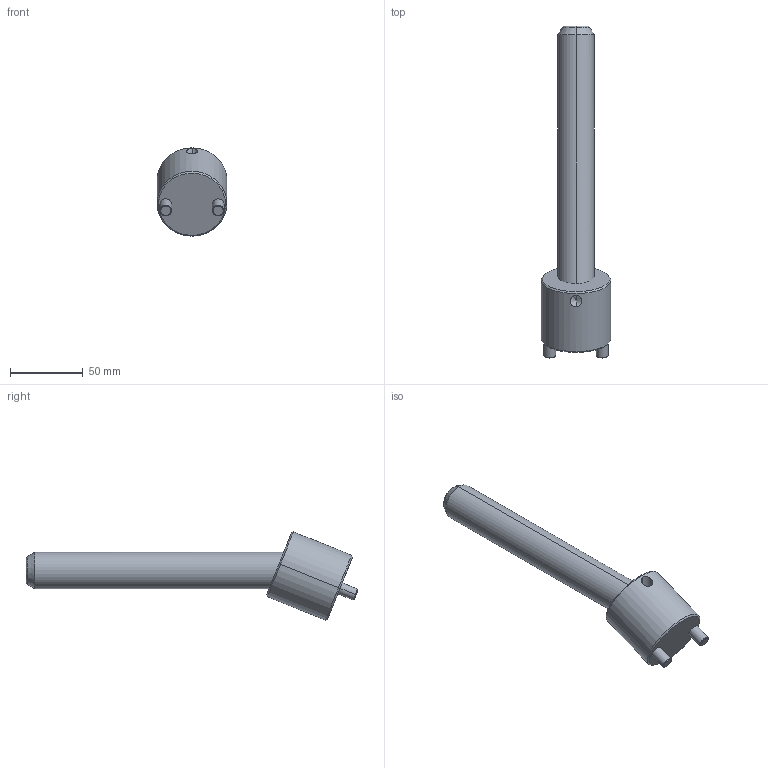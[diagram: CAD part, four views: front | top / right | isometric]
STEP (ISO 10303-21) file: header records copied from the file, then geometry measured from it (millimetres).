
FILE_DESCRIPTION(('CATIA V5 STEP Exchange'),'2;1');
FILE_NAME('C:\Users\Raffaele\Desktop\3D BOLEX\3D FILES CF BOLEX\19-INCLINED ASSEMBLY REF_CI\CI2225175.stp','2019-06-24T06:53:23+00:00',('none'),('none'),'CATIA Version 5 Release 20 GA (IN-10)','CATIA V5 STEP AP203','none');
FILE_SCHEMA(('CONFIG_CONTROL_DESIGN'));
Length unit declared in the file: millimetre
Products named in the file (1): CI2225175
Assembly tree (2 placements, depth 2):
  CI2225175
    #58
    #608
Bounding box: 48 x 228.03 x 60.61 mm (x, y, z)
Volume: 165076.5 mm3; surface area: 31261.5 mm2
Topology: 2 solids, 2 shells, 39 faces, 82 edges, 47 vertices
Faces by surface type: cone 14, cylinder 14, plane 7, torus 4
Entity records: 1536 total; most frequent: CARTESIAN_POINT 677, ORIENTED_EDGE 160, DIRECTION 145, EDGE_CURVE 80, AXIS2_PLACEMENT_3D 72, VERTEX_POINT 47, EDGE_LOOP 43, ADVANCED_FACE 39
